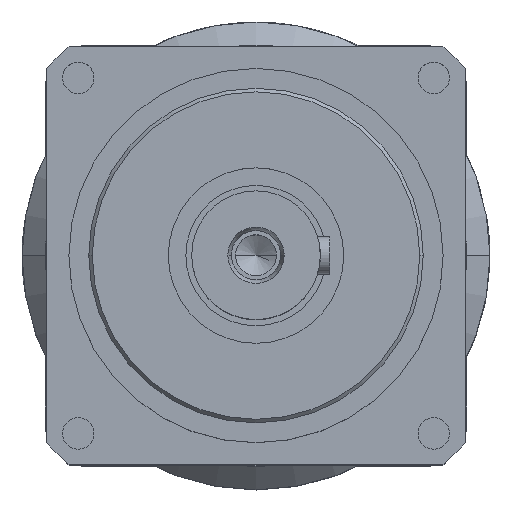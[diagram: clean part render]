
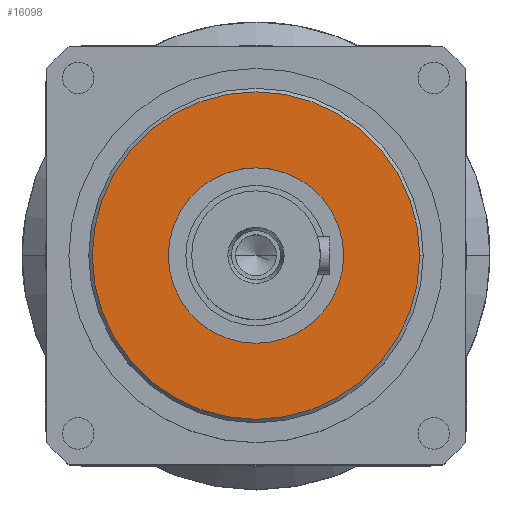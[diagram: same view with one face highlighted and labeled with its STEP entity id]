
A CAD part, top view. The second image highlights one B-rep face of the part: STEP entity #16098.
In plain terms, the highlighted planar face has unit normal (0, 0, 1).
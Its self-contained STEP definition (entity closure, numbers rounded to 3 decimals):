
#299 = PLANE ( 'NONE',  #20779 ) ;
#2576 = VERTEX_POINT ( 'NONE', #30281 ) ;
#3427 = EDGE_CURVE ( 'NONE', #2576, #26401, #7858, .T. ) ;
#4488 = CARTESIAN_POINT ( 'NONE',  ( 0., 0., 0. ) ) ;
#5617 = DIRECTION ( 'NONE',  ( 0., 0., 1. ) ) ;
#5638 = CARTESIAN_POINT ( 'NONE',  ( 37.5, 0., 0. ) ) ;
#6139 = CIRCLE ( 'NONE', #38340, 70. ) ;
#6343 = AXIS2_PLACEMENT_3D ( 'NONE', #4488, #25858, #7568 ) ;
#6362 = DIRECTION ( 'NONE',  ( -1., 0., 0. ) ) ;
#6770 = EDGE_CURVE ( 'NONE', #26401, #2576, #16225, .T. ) ;
#7568 = DIRECTION ( 'NONE',  ( -1., 0., 0. ) ) ;
#7858 = CIRCLE ( 'NONE', #17640, 37.5 ) ;
#8020 = EDGE_LOOP ( 'NONE', ( #32564, #17176 ) ) ;
#10232 = CARTESIAN_POINT ( 'NONE',  ( 0., 0., 0. ) ) ;
#10788 = ORIENTED_EDGE ( 'NONE', *, *, #30666, .F. ) ;
#12331 = VERTEX_POINT ( 'NONE', #15986 ) ;
#13245 = DIRECTION ( 'NONE',  ( 1., 0., 0. ) ) ;
#13823 = AXIS2_PLACEMENT_3D ( 'NONE', #10232, #31440, #13245 ) ;
#14505 = DIRECTION ( 'NONE',  ( 0., 0., -1. ) ) ;
#15986 = CARTESIAN_POINT ( 'NONE',  ( -70., 0., 0. ) ) ;
#16098 = ADVANCED_FACE ( 'NONE', ( #33466, #27425 ), #299, .F. ) ;
#16225 = CIRCLE ( 'NONE', #13823, 37.5 ) ;
#17176 = ORIENTED_EDGE ( 'NONE', *, *, #3427, .F. ) ;
#17640 = AXIS2_PLACEMENT_3D ( 'NONE', #33316, #5617, #21693 ) ;
#20779 = AXIS2_PLACEMENT_3D ( 'NONE', #21631, #24692, #6362 ) ;
#21631 = CARTESIAN_POINT ( 'NONE',  ( 0., 70., 0. ) ) ;
#21693 = DIRECTION ( 'NONE',  ( 1., 0., 0. ) ) ;
#21927 = VERTEX_POINT ( 'NONE', #23249 ) ;
#23249 = CARTESIAN_POINT ( 'NONE',  ( 70., 0., 0. ) ) ;
#24692 = DIRECTION ( 'NONE',  ( 0., 0., -1. ) ) ;
#24984 = CIRCLE ( 'NONE', #6343, 70. ) ;
#25764 = EDGE_CURVE ( 'NONE', #12331, #21927, #24984, .T. ) ;
#25858 = DIRECTION ( 'NONE',  ( 0., 0., -1. ) ) ;
#26401 = VERTEX_POINT ( 'NONE', #5638 ) ;
#27425 = FACE_OUTER_BOUND ( 'NONE', #38721, .T. ) ;
#30281 = CARTESIAN_POINT ( 'NONE',  ( -37.5, 0., 0. ) ) ;
#30666 = EDGE_CURVE ( 'NONE', #21927, #12331, #6139, .T. ) ;
#31440 = DIRECTION ( 'NONE',  ( 0., 0., 1. ) ) ;
#32564 = ORIENTED_EDGE ( 'NONE', *, *, #6770, .F. ) ;
#32627 = CARTESIAN_POINT ( 'NONE',  ( 0., 0., 0. ) ) ;
#33316 = CARTESIAN_POINT ( 'NONE',  ( 0., 0., 0. ) ) ;
#33466 = FACE_BOUND ( 'NONE', #8020, .T. ) ;
#35628 = DIRECTION ( 'NONE',  ( -1., 0., 0. ) ) ;
#36825 = ORIENTED_EDGE ( 'NONE', *, *, #25764, .F. ) ;
#38340 = AXIS2_PLACEMENT_3D ( 'NONE', #32627, #14505, #35628 ) ;
#38721 = EDGE_LOOP ( 'NONE', ( #36825, #10788 ) ) ;
